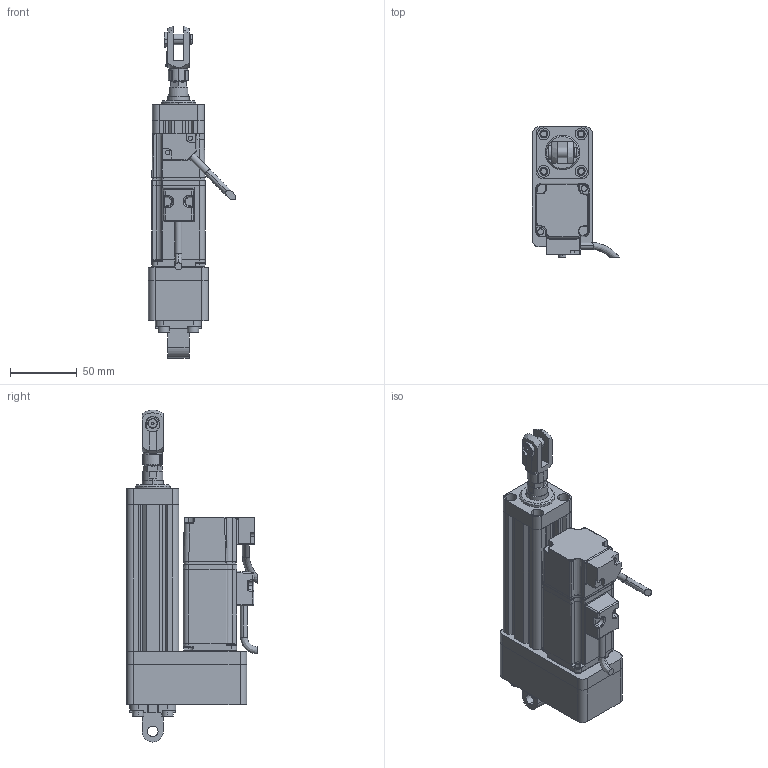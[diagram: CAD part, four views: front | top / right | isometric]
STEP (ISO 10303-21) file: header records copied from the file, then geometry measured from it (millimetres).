
FILE_DESCRIPTION (( 'STEP AP214' ), '1' );
FILE_NAME ('039-S50-D02-B-M5-C3-2.STEP', '2021-03-02T05:22:08', ( '' ), ( '' ), 'SwSTEP 2.0', 'SolidWorks 2018', '' );
FILE_SCHEMA (( 'AUTOMOTIVE_DESIGN' ));
Length unit declared in the file: millimetre
Products named in the file (10): CMC039-GT; F-MA20Y; 039-S50-D02-B-M5-C3-2; CMC039-LJB; F-ACE20CA_ACE_; ECMA-CX0401ES-40框號系列機種-100W低慣量系列; GB／T6174-2000六角薄螺母无倒角M8; CMC039-FL; CMC039-DT; CMC039-HXT
Assembly tree (9 placements, depth 2):
  039-S50-D02-B-M5-C3-2
    CMC039-GT
    CMC039-LJB
    CMC039-FL
    CMC039-DT
    ECMA-CX0401ES-40框號系列機種-100W低慣量系列
    CMC039-HXT
    F-ACE20CA_ACE_
    F-MA20Y
    GB／T6174-2000六角薄螺母无倒角M8
Bounding box: 65.34 x 97.89 x 249 mm (x, y, z)
Volume: 396669 mm3; surface area: 118444 mm2
Topology: 9 solids, 17 shells, 869 faces, 2270 edges, 1428 vertices
Faces by surface type: plane 355, cylinder 349, bspline 96, cone 69
Entity records: 33330 total; most frequent: CARTESIAN_POINT 12484, ORIENTED_EDGE 4474, DIRECTION 3863, EDGE_CURVE 2237, VERTEX_POINT 1428, AXIS2_PLACEMENT_3D 1376, LINE 1111, VECTOR 1111
